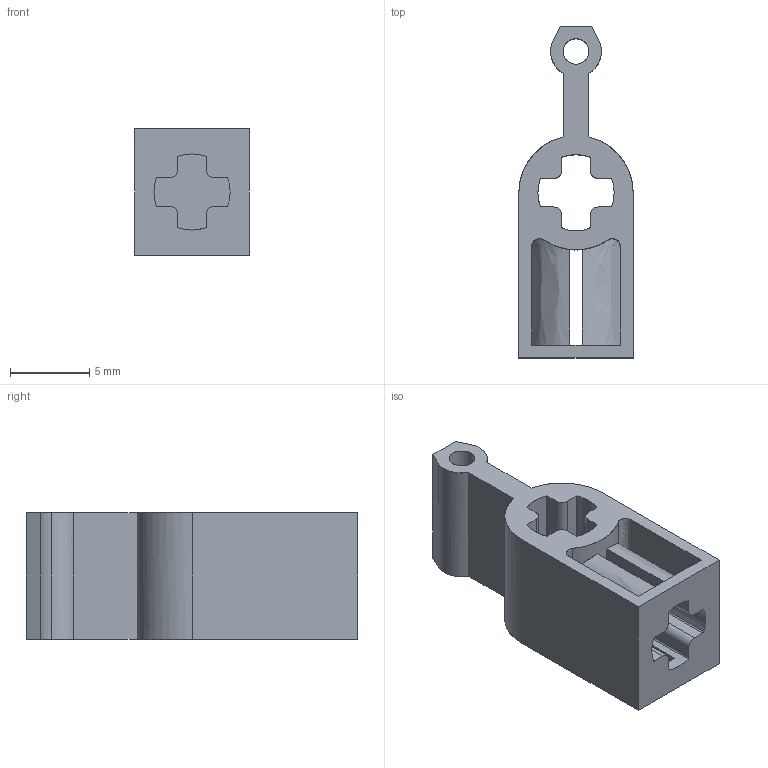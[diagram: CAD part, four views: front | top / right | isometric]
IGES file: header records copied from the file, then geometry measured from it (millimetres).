
Start section: C
Global section: file name: Red_4270473_AVV.iges; native system: By Siemens PLM Incorporated; preprocessor: XPlus GENERIC/IGES 26.1.183; author: Author; organization: Title; date: 20250722.000322; units: millimetre
Bounding box: 7.2 x 20.9 x 8 mm (x, y, z)
Surface area: 1053.6 mm2 (no closed solid volume)
Topology: 0 solids, 0 shells, 87 faces, 508 edges, 508 vertices
Faces by surface type: bspline 87
